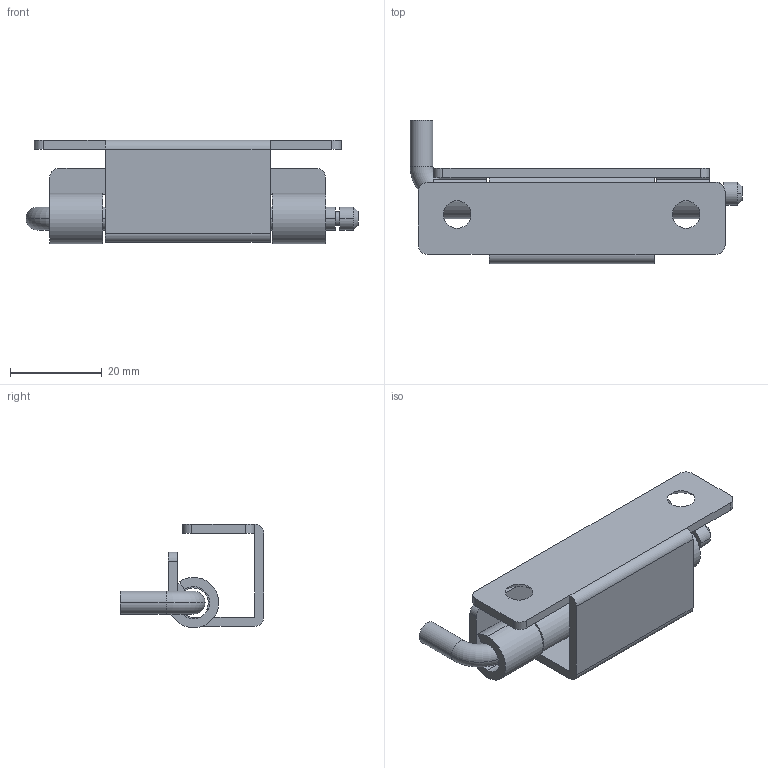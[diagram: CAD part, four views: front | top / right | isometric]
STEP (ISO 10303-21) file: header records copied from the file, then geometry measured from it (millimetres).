
FILE_DESCRIPTION (( 'STEP AP203' ), '1' );
FILE_NAME ('XG02-062-2.STEP', '2023-12-09T02:39:31', ( '' ), ( '' ), 'SwSTEP 2.0', 'SolidWorks 2020', '' );
FILE_SCHEMA (( 'CONFIG_CONTROL_DESIGN' ));
Length unit declared in the file: millimetre
Products named in the file (1): XG02-062-2
Bounding box: 72.5 x 31.3 x 22.63 mm (x, y, z)
Volume: 9619.1 mm3; surface area: 10536.1 mm2
Topology: 3 solids, 3 shells, 66 faces, 166 edges, 108 vertices
Faces by surface type: cylinder 30, plane 28, cone 6, torus 2
Entity records: 2081 total; most frequent: DIRECTION 374, CARTESIAN_POINT 341, ORIENTED_EDGE 332, EDGE_CURVE 166, AXIS2_PLACEMENT_3D 141, VERTEX_POINT 108, VECTOR 92, LINE 92
